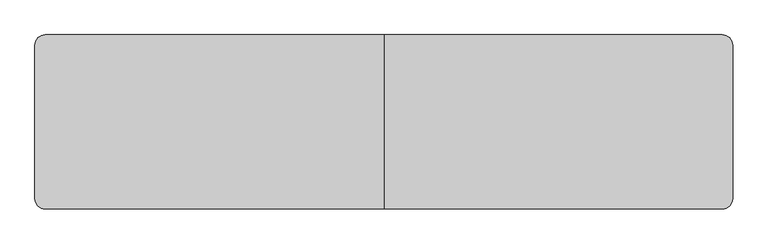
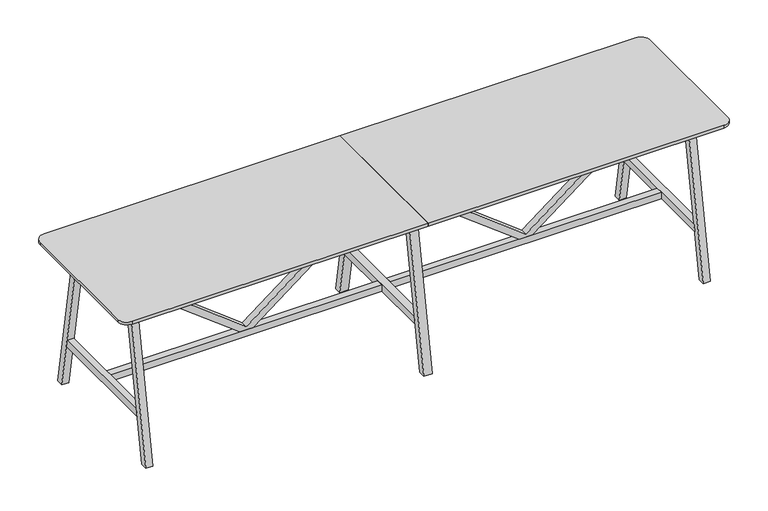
"""IFC4 building model written with IfcOpenShell, lengths in millimetres: furniture geometry, BDG_BossDesign_Tbls_AgentTables6Legs : AGE-HT-6L-4000-1000-3D."""

from ifc_helpers import new_model, si_unit, point, frame, frame_2d, origin, place, context, project, spatial, polyline, circle_curve, trimmed, segment, composite_curve, outline, extrude, source, transform, mapped, element, save


def furniture_0840cc05(model_context):
    return source(origin(), model_context, "Body", "SweptSolid", [
        extrude(outline(polyline([(345.0, 874.0823957), (345.0, 958.4176043), (992.0, 1805.0), (1032.0, 1805.0), (1032.0, 1785.0), (365.0, 916.25), (1032.0, 47.5), (1032.0, 27.5), (992.0, 27.5), (345.0, 874.0823957)])), frame((0.0, -22.5000305, 0.0), z_axis=(0.0, 1.0, 0.0), x_axis=(0.0, 0.0, 1.0)), (0.0, 0.0, 1.0), 45.000061),
        extrude(outline(polyline([(345.0, -874.0823957), (992.0, -27.5), (1032.0, -27.5), (1032.0, -47.5), (365.0, -916.25), (1032.0, -1785.0), (1032.0, -1805.0), (992.0, -1805.0), (345.0, -958.4176043), (345.0, -874.0823957)])), frame((0.0, -22.5000305, 0.0), z_axis=(0.0, 1.0, 0.0), x_axis=(0.0, 0.0, 1.0)), (0.0, 0.0, 1.0), 45.000061),
        extrude(outline(polyline([(500.0, 0.0), (454.9999949, 0.0), (285.5, 970.0), (330.5000051, 970.0), (500.0, 0.0)])), frame((-27.5, 0.0, 0.0), z_axis=(1.0, 0.0, 0.0), x_axis=(0.0, 1.0, 0.0)), (0.0, 0.0, 1.0), 55.0),
        extrude(outline(polyline([(-500.0, 0.0), (-330.5000051, 970.0), (-285.5, 970.0), (-454.9999949, 0.0), (-500.0, 0.0)])), frame((-27.5, 0.0, 0.0), z_axis=(1.0, 0.0, 0.0), x_axis=(0.0, 1.0, 0.0)), (0.0, 0.0, 1.0), 55.0),
        extrude(outline(polyline([(402.5773161, 300.0), (-402.5773161, 300.0), (-394.7139143, 345.0), (394.7139143, 345.0), (402.5773161, 300.0)])), frame((-27.5, 0.0, 0.0), z_axis=(1.0, 0.0, 0.0), x_axis=(0.0, 1.0, 0.0)), (0.0, 0.0, 1.0), 55.0),
        extrude(outline(composite_curve([segment(polyline([(0.0, 500.0), (0.0, -500.0), (-1940.0, -500.0)]), True, "CONTINUOUS"), segment(trimmed(circle_curve(frame_2d((-1940.0, -440.0)), 60.0), [point((-1940.0, -500.0))], [point((-2000.0, -440.0))], False, "CARTESIAN"), True, "CONTINUOUS"), segment(polyline([(-2000.0, -440.0), (-2000.0, 440.0)]), True, "CONTINUOUS"), segment(trimmed(circle_curve(frame_2d((-1940.0, 440.0)), 60.0), [point((-2000.0, 440.0))], [point((-1940.0, 500.0))], False, "CARTESIAN"), True, "CONTINUOUS"), segment(polyline([(-1940.0, 500.0), (0.0, 500.0)]), True, "CONTINUOUS")], self_intersect=False)), frame((0.0, 0.0, 1032.0), z_axis=(0.0, 0.0, 1.0), x_axis=(1.0, 0.0, 0.0)), (0.0, 0.0, 1.0), 18.0),
        extrude(outline(polyline([(-394.7139143, 345.0), (394.7139143, 345.0), (402.5773161, 300.0), (-402.5773161, 300.0), (-394.7139143, 345.0)])), frame((1805.0, 0.0, 0.0), z_axis=(1.0, 0.0, 0.0), x_axis=(0.0, 1.0, 0.0)), (0.0, 0.0, 1.0), 45.0),
        extrude(outline(polyline([(500.0, 0.0), (454.9999949, 0.0), (285.5, 970.0), (330.5000051, 970.0), (500.0, 0.0)])), frame((-1850.0, 0.0, 0.0), z_axis=(1.0, 0.0, 0.0), x_axis=(0.0, 1.0, 0.0)), (0.0, 0.0, 1.0), 45.0),
        extrude(outline(polyline([(-500.0, 0.0), (-330.5000051, 970.0), (-285.5, 970.0), (-454.9999949, 0.0), (-500.0, 0.0)])), frame((-1850.0, 0.0, 0.0), z_axis=(1.0, 0.0, 0.0), x_axis=(0.0, 1.0, 0.0)), (0.0, 0.0, 1.0), 45.0),
        extrude(outline(polyline([(-394.7139143, 345.0), (394.7139143, 345.0), (402.5773161, 300.0), (-402.5773161, 300.0), (-394.7139143, 345.0)])), frame((-1850.0, 0.0, 0.0), z_axis=(1.0, 0.0, 0.0), x_axis=(0.0, 1.0, 0.0)), (0.0, 0.0, 1.0), 45.0),
        extrude(outline(polyline([(-326.6006165, 944.973938), (-304.2770691, 1032.0), (-279.5, 1032.0), (-301.8235474, 944.973938), (-326.6006165, 944.973938)])), frame((-1805.0, 0.0, 0.0), z_axis=(1.0, 0.0, 0.0), x_axis=(0.0, 1.0, 0.0)), (0.0, 0.0, 1.0), 3610.0),
        extrude(outline(polyline([(326.6006165, 944.973938), (301.8235474, 944.973938), (279.5, 1032.0), (304.2770691, 1032.0), (326.6006165, 944.973938)])), frame((-1805.0, 0.0, 0.0), z_axis=(1.0, 0.0, 0.0), x_axis=(0.0, 1.0, 0.0)), (0.0, 0.0, 1.0), 3610.0),
        extrude(outline(polyline([(499.7999878, 0.0), (454.7999827, 0.0), (285.5, 970.0), (330.5000051, 970.0), (499.7999878, 0.0)])), frame((1805.0, 0.0, 0.0), z_axis=(1.0, 0.0, 0.0), x_axis=(0.0, 1.0, 0.0)), (0.0, 0.0, 1.0), 45.0),
        extrude(outline(polyline([(-499.7999878, 0.0), (-330.5000051, 970.0), (-285.5, 970.0), (-454.7999827, 0.0), (-499.7999878, 0.0)])), frame((1805.0, 0.0, 0.0), z_axis=(1.0, 0.0, 0.0), x_axis=(0.0, 1.0, 0.0)), (0.0, 0.0, 1.0), 45.0),
        extrude(outline(polyline([(-27.5, 22.5000305), (-27.5, -22.5000305), (-1805.0, -22.5000305), (-1805.0, 22.5000305), (-27.5, 22.5000305)])), frame((0.0, 0.0, 300.0), z_axis=(0.0, 0.0, 1.0), x_axis=(1.0, 0.0, 0.0)), (0.0, 0.0, 1.0), 45.0),
        extrude(outline(polyline([(27.5, -22.5000305), (27.5, 22.5000305), (1805.0, 22.5000305), (1805.0, -22.5000305), (27.5, -22.5000305)])), frame((0.0, 0.0, 300.0), z_axis=(0.0, 0.0, 1.0), x_axis=(1.0, 0.0, 0.0)), (0.0, 0.0, 1.0), 45.0),
        extrude(outline(composite_curve([segment(trimmed(circle_curve(frame_2d((1940.0, 440.0)), 60.0), [point((1940.0, 500.0))], [point((2000.0, 440.0))], False, "CARTESIAN"), True, "CONTINUOUS"), segment(polyline([(2000.0, 440.0), (2000.0, -440.0)]), True, "CONTINUOUS"), segment(trimmed(circle_curve(frame_2d((1940.0, -440.0)), 60.0), [point((2000.0, -440.0))], [point((1940.0, -500.0))], False, "CARTESIAN"), True, "CONTINUOUS"), segment(polyline([(1940.0, -500.0), (0.0, -500.0), (0.0, 500.0), (1940.0, 500.0)]), True, "CONTINUOUS")], self_intersect=False)), frame((0.0, 0.0, 1032.0), z_axis=(0.0, 0.0, 1.0), x_axis=(1.0, 0.0, 0.0)), (0.0, 0.0, 1.0), 18.0),
    ])


if __name__ == "__main__":
    model = new_model("IFC4")
    model_context = context("Model", 3, world=origin())
    ifc_project = project(units=[si_unit("LENGTHUNIT", "METRE", prefix="MILLI")], contexts=[model_context])
    site = spatial("IfcSite", under=ifc_project)
    building = spatial("IfcBuilding", under=site)
    placement = place(None, origin())
    furniture_shape = furniture_0840cc05(model_context)
    element("IfcFurniture", 1, ObjectType="BDG_BossDesign_Tbls_AgentTables6Legs : AGE-HT-6L-4000-1000-3D", at=placement, inside=building, context=model_context, shape_type="MappedRepresentation", body=[
        mapped(furniture_shape, transform((0.0, 0.0, 0.0), x_axis=(1.0, 0.0, 0.0), y_axis=(0.0, 1.0, 0.0), z_axis=(0.0, 0.0, 1.0))),
    ])
    save(model, "model.ifc")
